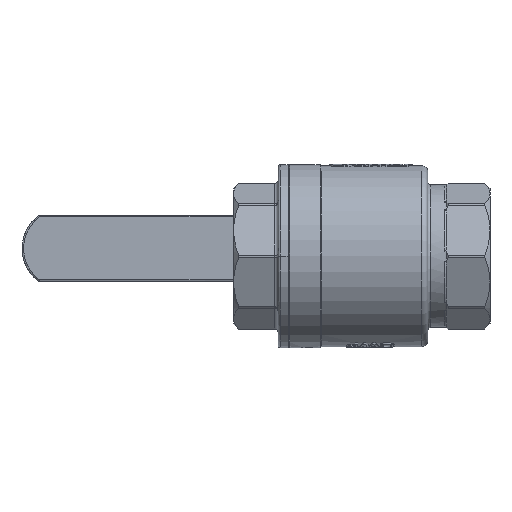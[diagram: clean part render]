
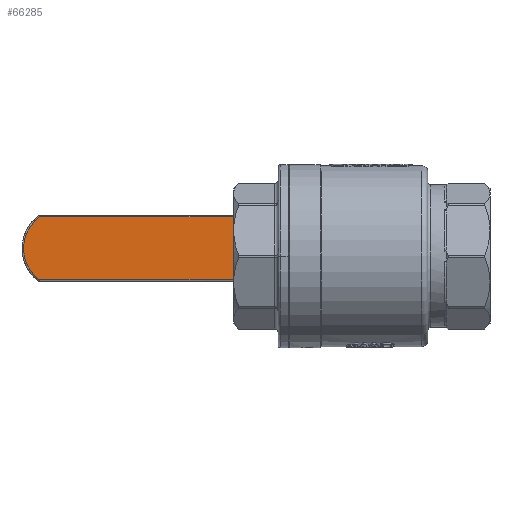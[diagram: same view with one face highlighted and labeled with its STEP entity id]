
A CAD part, front view. The second image highlights one B-rep face of the part: STEP entity #66285.
In plain terms, the highlighted planar face has unit normal (0, -1, 0).
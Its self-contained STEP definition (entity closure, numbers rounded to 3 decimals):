
#950 = AXIS2_PLACEMENT_3D ( 'NONE', #121384, #15122, #36489 ) ;
#2545 = VERTEX_POINT ( 'NONE', #110459 ) ;
#4074 = ORIENTED_EDGE ( 'NONE', *, *, #29833, .T. ) ;
#10904 = CARTESIAN_POINT ( 'NONE',  ( -146.531, -6., -19.75 ) ) ;
#12915 = EDGE_CURVE ( 'NONE', #2545, #81297, #81694, .T. ) ;
#15122 = DIRECTION ( 'NONE',  ( 0., 1., 0. ) ) ;
#15182 = AXIS2_PLACEMENT_3D ( 'NONE', #89412, #57218, #88472 ) ;
#29833 = EDGE_CURVE ( 'NONE', #77524, #2545, #32186, .T. ) ;
#31954 = CARTESIAN_POINT ( 'NONE',  ( -146.031, -6., -19.75 ) ) ;
#32186 = CIRCLE ( 'NONE', #15182, 24.5 ) ;
#32826 = ORIENTED_EDGE ( 'NONE', *, *, #120088, .T. ) ;
#36489 = DIRECTION ( 'NONE',  ( -1., 0., 0. ) ) ;
#39943 = LINE ( 'NONE', #10904, #85068 ) ;
#44310 = ORIENTED_EDGE ( 'NONE', *, *, #94960, .T. ) ;
#50494 = ORIENTED_EDGE ( 'NONE', *, *, #12915, .T. ) ;
#57218 = DIRECTION ( 'NONE',  ( 0., -1., 0. ) ) ;
#64134 = CARTESIAN_POINT ( 'NONE',  ( -146.031, -6., 19.75 ) ) ;
#64500 = DIRECTION ( 'NONE',  ( 1., 0., 0. ) ) ;
#66285 = ADVANCED_FACE ( 'NONE', ( #80502 ), #110653, .F. ) ;
#69423 = VECTOR ( 'NONE', #134869, 1000. ) ;
#77524 = VERTEX_POINT ( 'NONE', #137191 ) ;
#80502 = FACE_OUTER_BOUND ( 'NONE', #132523, .T. ) ;
#80797 = CARTESIAN_POINT ( 'NONE',  ( -146.031, -6., 19.75 ) ) ;
#81297 = VERTEX_POINT ( 'NONE', #64134 ) ;
#81694 = LINE ( 'NONE', #97039, #103341 ) ;
#85068 = VECTOR ( 'NONE', #64500, 1000. ) ;
#88472 = DIRECTION ( 'NONE',  ( -1., 0., 0. ) ) ;
#89412 = CARTESIAN_POINT ( 'NONE',  ( -24.5, -6., 0. ) ) ;
#92809 = LINE ( 'NONE', #80797, #69423 ) ;
#94960 = EDGE_CURVE ( 'NONE', #104002, #77524, #39943, .T. ) ;
#96568 = DIRECTION ( 'NONE',  ( -1., 0., 0. ) ) ;
#97039 = CARTESIAN_POINT ( 'NONE',  ( -146.531, -6., 19.75 ) ) ;
#103341 = VECTOR ( 'NONE', #96568, 1000. ) ;
#104002 = VERTEX_POINT ( 'NONE', #31954 ) ;
#110459 = CARTESIAN_POINT ( 'NONE',  ( -10.002, -6., 19.75 ) ) ;
#110653 = PLANE ( 'NONE',  #950 ) ;
#120088 = EDGE_CURVE ( 'NONE', #81297, #104002, #92809, .T. ) ;
#121384 = CARTESIAN_POINT ( 'NONE',  ( -146.531, -6., 19.75 ) ) ;
#132523 = EDGE_LOOP ( 'NONE', ( #50494, #32826, #44310, #4074 ) ) ;
#134869 = DIRECTION ( 'NONE',  ( 0., 0., -1. ) ) ;
#137191 = CARTESIAN_POINT ( 'NONE',  ( -10.002, -6., -19.75 ) ) ;
